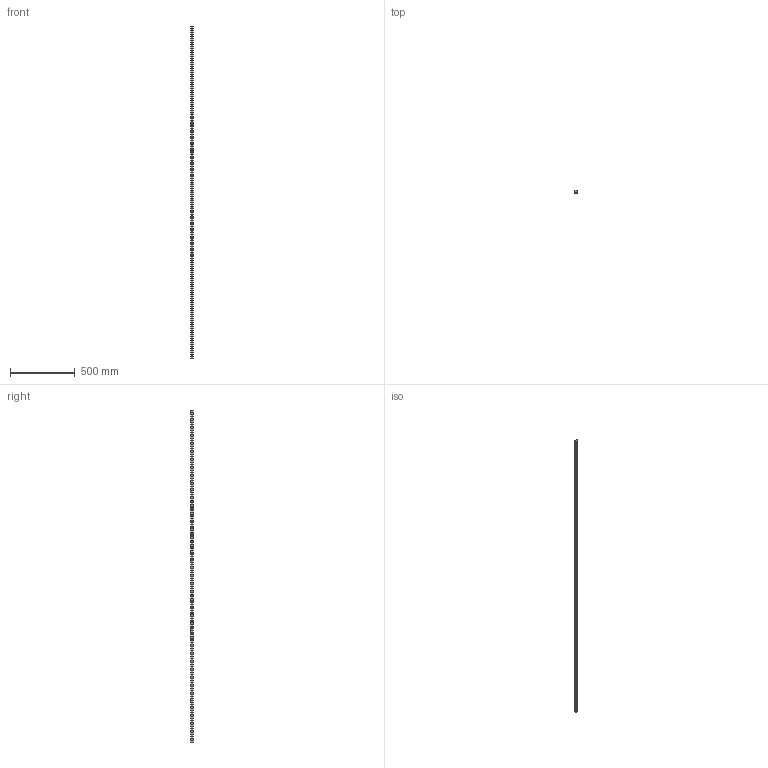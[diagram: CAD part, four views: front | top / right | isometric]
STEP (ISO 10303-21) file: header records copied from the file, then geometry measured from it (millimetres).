
FILE_DESCRIPTION (( 'STEP AP203' ), '1' );
FILE_NAME ('L1016.BL25-2560.step', '2019-06-12T12:11:42', ( '' ), ( '' ), 'SwSTEP 2.0', 'SolidWorks 2017', '' );
FILE_SCHEMA (( 'CONFIG_CONTROL_DESIGN' ));
Length unit declared in the file: millimetre
Products named in the file (1): L1016.BL25-2560
Bounding box: 23 x 19.2 x 2560 mm (x, y, z)
Volume: 943340.5 mm3; surface area: 242342 mm2
Topology: 1 solids, 1 shells, 241 faces, 588 edges, 392 vertices
Faces by surface type: cylinder 176, plane 65
Entity records: 7523 total; most frequent: DIRECTION 1424, CARTESIAN_POINT 1222, ORIENTED_EDGE 1176, AXIS2_PLACEMENT_3D 594, EDGE_CURVE 588, VERTEX_POINT 392, EDGE_LOOP 370, CIRCLE 352
